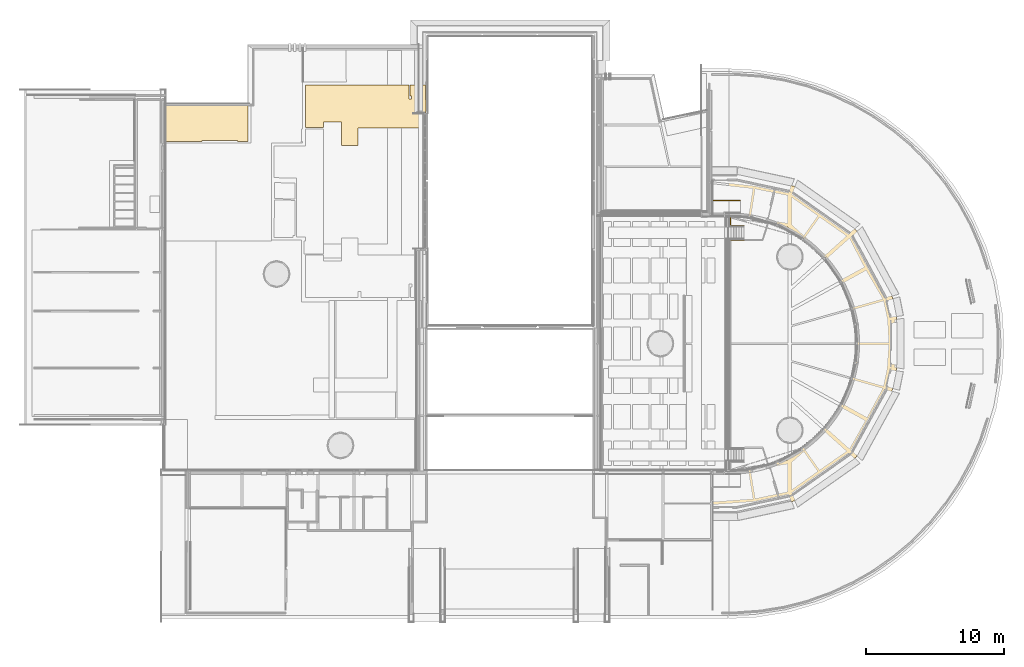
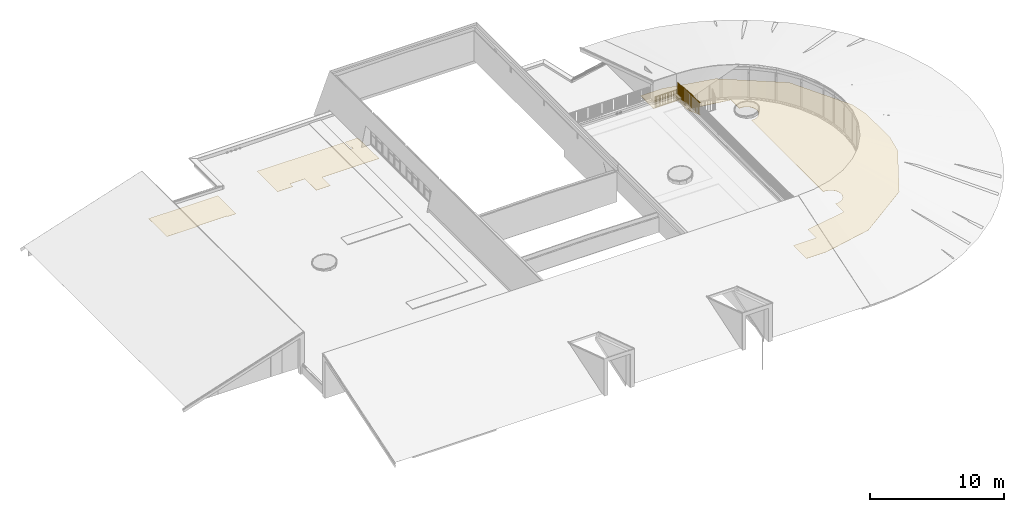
# One storey, part 59 of 66: 4 railings, 3 coverings.
"""IFC2X3 building model written with IfcOpenShell, lengths in millimetres."""

import ifcopenshell
import ifcopenshell.guid

model = None  # the IFC model being written
_history = None  # IfcOwnerHistory: only IFC2X3 demands one
_inside = {}  # id of a spatial element -> (the spatial element, [elements in it])
_under = {}  # id of a project, library or spatial element -> (it, [spatial elements below it])
_declared = {}  # id of a project -> (the project, [libraries it declares])
_typed = {}  # id of a type object -> (the type object, [elements of that type])
_made_of = {}  # id of a material, layer set ... -> (it, [elements and type objects made of it])


def new_model(schema):
    """Start an empty IFC model of exactly this schema.

    Asked for "IFC4X3", IfcOpenShell would pick the latest addendum, in which some entities
    have other attributes; the version numbers below select the first issue.
    IFC2X3 requires an IfcOwnerHistory on every rooted entity: one is made here for all.
    """
    global model, _history
    if schema == "IFC4X3":
        model = ifcopenshell.file(schema_version=(4, 3, 0, 0))
    else:
        model = ifcopenshell.file(schema=schema)
    _inside.clear()
    _under.clear()
    _declared.clear()
    _typed.clear()
    _made_of.clear()
    _history = None
    if model.schema == "IFC2X3":
        org = make("IfcOrganization", Name="unknown")
        user = make(
            "IfcPersonAndOrganization",
            ThePerson=make("IfcPerson", FamilyName="unknown"),
            TheOrganization=org,
        )
        app = make(
            "IfcApplication",
            ApplicationDeveloper=org,
            Version="unknown",
            ApplicationFullName="unknown",
            ApplicationIdentifier="unknown",
        )
        _history = make(
            "IfcOwnerHistory",
            OwningUser=user,
            OwningApplication=app,
            ChangeAction="ADDED",
            CreationDate=0,
        )
    return model


def make(cls, **values):
    """One entity of the class cls with the attributes given. An attribute that is None is left unset."""
    return model.create_entity(
        cls, **{name: value for name, value in values.items() if value is not None}
    )


def entity(cls, *values):
    """Any entity or typed value of the class cls, its attributes in the order of the schema. None: left unset."""
    e = model.create_entity(cls)
    for i, value in enumerate(values):
        if value is not None:
            e[i] = value
    return e


def rooted(cls, **values):
    """An entity with a GlobalId (a new one), such as an element, a storey or a relation."""
    return make(cls, GlobalId=ifcopenshell.guid.new(), OwnerHistory=_history, **values)


def si_unit(unit_type, name, prefix=None):
    """IfcSIUnit, for example si_unit("LENGTHUNIT", "METRE", prefix="MILLI")."""
    return make("IfcSIUnit", UnitType=unit_type, Prefix=prefix, Name=name)


def converted_unit(unit_type, name, factor, base, dimensions=None, offset=None):
    """IfcConversionBasedUnit, such as the inch: factor (a typed value) times the base unit."""
    return make(
        "IfcConversionBasedUnit"
        if offset is None
        else "IfcConversionBasedUnitWithOffset",
        ConversionOffset=offset,
        Dimensions=None
        if dimensions is None
        else entity("IfcDimensionalExponents", *dimensions),
        UnitType=unit_type,
        Name=name,
        ConversionFactor=make(
            "IfcMeasureWithUnit", ValueComponent=factor, UnitComponent=base
        ),
    )


def derived_unit(unit_type, elements):
    """IfcDerivedUnit: a product of units, each with its exponent."""
    return make(
        "IfcDerivedUnit",
        Elements=[
            make("IfcDerivedUnitElement", Unit=unit, Exponent=power)
            for unit, power in elements
        ],
        UnitType=unit_type,
    )


def assignment(units):
    """IfcUnitAssignment: the units of a project."""
    return None if units is None else make("IfcUnitAssignment", Units=units)


def point(xyz):
    """IfcCartesianPoint."""
    return None if xyz is None else make("IfcCartesianPoint", Coordinates=xyz)


def direction(xyz):
    """IfcDirection."""
    return None if xyz is None else make("IfcDirection", DirectionRatios=xyz)


def frame(location, z_axis=None, x_axis=None):
    """IfcAxis2Placement3D, a coordinate frame: its origin and axes. An axis left out is left unset."""
    return make(
        "IfcAxis2Placement3D",
        Location=point(location),
        Axis=direction(z_axis),
        RefDirection=direction(x_axis),
    )


def frame_2d(location, x_axis=None):
    """IfcAxis2Placement2D, a coordinate frame in the plane: its origin and x axis."""
    return make(
        "IfcAxis2Placement2D", Location=point(location), RefDirection=direction(x_axis)
    )


def origin():
    """The frame at (0, 0, 0) with its axes left unset."""
    return frame((0.0, 0.0, 0.0))


def place(relative_to, where):
    """IfcLocalPlacement: puts the frame where relative to a parent placement (None: the world)."""
    return make(
        "IfcLocalPlacement", PlacementRelTo=relative_to, RelativePlacement=where
    )


def context(
    kind, dimensions, precision=None, world=None, true_north=None, identifier=None
):
    """IfcGeometricRepresentationContext, for example the 3D "Model" context."""
    return make(
        "IfcGeometricRepresentationContext",
        ContextIdentifier=identifier,
        ContextType=kind,
        CoordinateSpaceDimension=dimensions,
        Precision=precision,
        WorldCoordinateSystem=world,
        TrueNorth=true_north,
    )


def subcontext(parent, identifier, kind, view, scale=None):
    """IfcGeometricRepresentationSubContext, for example "Body" below "Model"."""
    return make(
        "IfcGeometricRepresentationSubContext",
        ContextIdentifier=identifier,
        ContextType=kind,
        ParentContext=parent,
        TargetScale=scale,
        TargetView=view,
    )


def project(units=None, contexts=None):
    """IfcProject with its units and contexts."""
    return rooted(
        "IfcProject",
        Name="project",
        RepresentationContexts=contexts,
        UnitsInContext=assignment(units),
    )


def spatial(cls, under=None, at=None, **own):
    """A site, building, storey or space (cls), placed at a placement, below another one or the project."""
    s = rooted(cls, ObjectPlacement=at, **own)
    if under is not None:
        _under.setdefault(under.id(), (under, []))[1].append(s)
    return s


def polyline(points):
    """IfcPolyline through the points."""
    return make("IfcPolyline", Points=[point(p) for p in points])


def circle_curve(where, radius):
    """IfcCircle in the frame where."""
    return make("IfcCircle", Position=where, Radius=radius)


def parameter(value):
    """IfcParameterValue: where a trimmed curve begins or ends, as a parameter of its basis curve."""
    return model.create_entity("IfcParameterValue", value)


def trimmed(basis, trim1, trim2, sense, master):
    """IfcTrimmedCurve: the piece of a basis curve between two trims."""
    return make(
        "IfcTrimmedCurve",
        BasisCurve=basis,
        Trim1=trim1,
        Trim2=trim2,
        SenseAgreement=sense,
        MasterRepresentation=master,
    )


def segment(curve, same_sense, transition):
    """IfcCompositeCurveSegment."""
    return make(
        "IfcCompositeCurveSegment",
        Transition=transition,
        SameSense=same_sense,
        ParentCurve=curve,
    )


def composite_curve(segments, self_intersect=None):
    """IfcCompositeCurve: segments joined end to end."""
    return make("IfcCompositeCurve", Segments=segments, SelfIntersect=self_intersect)


def profile(cls, at=None, kind="AREA", **sizes):
    """A parametric profile (cls). Its sizes go by their IFC names, for example OverallWidth=200.0."""
    return make(cls, ProfileType=kind, Position=at, **sizes)


def rectangle(**sizes):
    """IfcRectangleProfileDef."""
    return profile("IfcRectangleProfileDef", **sizes)


def outline(outer, holes=None, kind="AREA"):
    """IfcArbitraryClosedProfileDef: a profile drawn as a closed curve; with holes, ...WithVoids."""
    if holes is None:
        return make("IfcArbitraryClosedProfileDef", ProfileType=kind, OuterCurve=outer)
    return make(
        "IfcArbitraryProfileDefWithVoids",
        ProfileType=kind,
        OuterCurve=outer,
        InnerCurves=holes,
    )


def extrude(swept, where, along, depth):
    """IfcExtrudedAreaSolid: the profile swept, set in the frame where, extruded along a direction by depth."""
    return make(
        "IfcExtrudedAreaSolid",
        SweptArea=swept,
        Position=where,
        ExtrudedDirection=direction(along),
        Depth=depth,
    )


def shape(context_of_items, identifier, shape_type, items):
    """IfcShapeRepresentation: the items that make up one representation, for example the "Body"."""
    return make(
        "IfcShapeRepresentation",
        ContextOfItems=context_of_items,
        RepresentationIdentifier=identifier,
        RepresentationType=shape_type,
        Items=items,
    )


def source(mapping_origin, context_of_items, identifier, shape_type, items):
    """IfcRepresentationMap: a shape defined once, which mapped items show again and again."""
    return make(
        "IfcRepresentationMap",
        MappingOrigin=mapping_origin,
        MappedRepresentation=shape(context_of_items, identifier, shape_type, items),
    )


def transform(
    local_origin,
    x_axis=None,
    y_axis=None,
    z_axis=None,
    scale=None,
    scale2=None,
    scale3=None,
    uniform=True,
):
    """IfcCartesianTransformationOperator3D, or its non-uniform kind. x_axis, y_axis, z_axis: its Axis1, 2, 3."""
    if uniform:
        return make(
            "IfcCartesianTransformationOperator3D",
            Axis1=direction(x_axis),
            Axis2=direction(y_axis),
            LocalOrigin=point(local_origin),
            Scale=scale,
            Axis3=direction(z_axis),
        )
    return make(
        "IfcCartesianTransformationOperator3DnonUniform",
        Axis1=direction(x_axis),
        Axis2=direction(y_axis),
        LocalOrigin=point(local_origin),
        Scale=scale,
        Axis3=direction(z_axis),
        Scale2=scale2,
        Scale3=scale3,
    )


def mapped(mapping_source, mapping_target):
    """IfcMappedItem: shows the shape of a source again, moved by a transform."""
    return make(
        "IfcMappedItem", MappingSource=mapping_source, MappingTarget=mapping_target
    )


def material(Name=None, Category=None):
    """IfcMaterial."""
    return make("IfcMaterial", Name=Name, Category=Category)


def material_list(materials):
    """IfcMaterialList."""
    return make("IfcMaterialList", Materials=materials)


def layer(
    of_material, thickness, ventilated=None, Name=None, Category=None, Priority=None
):
    """IfcMaterialLayer: one layer of a wall or slab, of a material (None: an air gap)."""
    return make(
        "IfcMaterialLayer",
        Material=of_material,
        LayerThickness=thickness,
        IsVentilated=ventilated,
        Name=Name,
        Category=Category,
        Priority=Priority,
    )


def layer_set(layers, Name=None):
    """IfcMaterialLayerSet."""
    return make("IfcMaterialLayerSet", MaterialLayers=layers, LayerSetName=Name)


def layer_usage(for_layer_set, set_direction, sense, offset, extent=None):
    """IfcMaterialLayerSetUsage: how a layer set lies in its element."""
    return make(
        "IfcMaterialLayerSetUsage",
        ForLayerSet=for_layer_set,
        LayerSetDirection=set_direction,
        DirectionSense=sense,
        OffsetFromReferenceLine=offset,
        ReferenceExtent=extent,
    )


def made_of(thing, what):
    """Note that an element or type object is made of a material, layer set ...; save() writes the relation."""
    if what is not None:
        _made_of.setdefault(what.id(), (what, []))[1].append(thing)
    return thing


def type_object(cls, material=None, **own):
    """A type object (cls), such as IfcWallType, which elements share."""
    return made_of(rooted(cls, **own), material)


def type_shapes(of_type, sources):
    """Give a type object the sources (RepresentationMaps) that its elements show as mapped items."""
    of_type.RepresentationMaps = sources


def element(
    cls,
    number,
    at=None,
    inside=None,
    cuts=None,
    type_object=None,
    material=None,
    context=None,
    identifier="Body",
    shape_type=None,
    held_by="IfcProductDefinitionShape",
    body=None,
    shapes=None,
    **own,
):
    """One element of the class cls, such as IfcWall. Its Tag is "e" and its number.

    at: its placement. inside: the storey or other place that contains it. cuts: it is an
    opening in that element (IfcRelVoidsElement). A single representation is given by context,
    identifier, shape_type and body (its items); several are given by shapes. held_by: the class
    of the entity that holds the representations. save() writes the other relations.
    """
    e = rooted(cls, Tag="e%d" % number, ObjectPlacement=at, **own)
    if body is not None:
        shapes = [shape(context, identifier, shape_type, body)]
    if shapes is not None:
        e.Representation = make(held_by, Representations=shapes)
    if inside is not None:
        _inside.setdefault(inside.id(), (inside, []))[1].append(e)
    if cuts is not None:
        rooted(
            "IfcRelVoidsElement", RelatingBuildingElement=cuts, RelatedOpeningElement=e
        )
    if type_object is not None:
        _typed.setdefault(type_object.id(), (type_object, []))[1].append(e)
    return made_of(e, material)


def aggregate(whole, parts):
    """IfcRelAggregates: a whole, such as a stair, and the parts it consists of."""
    return rooted("IfcRelAggregates", RelatingObject=whole, RelatedObjects=parts)


def save(model, path):
    """Write the relations noted so far, then the file.

    IfcRelAggregates (storeys below a building ...), IfcRelContainedInSpatialStructure (elements
    in a storey), IfcRelDefinesByType, IfcRelAssociatesMaterial and IfcRelDeclares: one each for
    every whole, place, type object, material and project.
    """
    for whole, parts in _under.values():
        aggregate(whole, parts)
    for where, things in _inside.values():
        rooted(
            "IfcRelContainedInSpatialStructure",
            RelatedElements=things,
            RelatingStructure=where,
        )
    for kind, things in _typed.values():
        rooted("IfcRelDefinesByType", RelatedObjects=things, RelatingType=kind)
    for what, things in _made_of.values():
        rooted("IfcRelAssociatesMaterial", RelatedObjects=things, RelatingMaterial=what)
    for by, libraries in _declared.values():
        rooted("IfcRelDeclares", RelatingContext=by, RelatedDefinitions=libraries)
    model.write(path)


model = new_model("IFC2X3")

# Units and contexts
model_context = context("Model", 3, precision=0.01, world=origin(), true_north=direction((6.12303176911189e-17, 1.0)))
body_context = subcontext(model_context, "Body", "Model", "MODEL_VIEW")
ifc_project = project(units=[si_unit("LENGTHUNIT", "METRE", prefix="MILLI"), si_unit("AREAUNIT", "SQUARE_METRE"), si_unit("VOLUMEUNIT", "CUBIC_METRE"), converted_unit("PLANEANGLEUNIT", "DEGREE", entity("IfcRatioMeasure", 0.0174532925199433), si_unit("PLANEANGLEUNIT", "RADIAN"), dimensions=[0, 0, 0, 0, 0, 0, 0]), si_unit("MASSUNIT", "GRAM", prefix="KILO"), derived_unit("MASSDENSITYUNIT", [(si_unit("MASSUNIT", "GRAM", prefix="KILO"), 1), (si_unit("LENGTHUNIT", "METRE"), -3)]), derived_unit("MOMENTOFINERTIAUNIT", [(si_unit("LENGTHUNIT", "METRE"), 4)]), si_unit("TIMEUNIT", "SECOND"), si_unit("FREQUENCYUNIT", "HERTZ"), si_unit("THERMODYNAMICTEMPERATUREUNIT", "DEGREE_CELSIUS"), derived_unit("THERMALTRANSMITTANCEUNIT", [(si_unit("MASSUNIT", "GRAM", prefix="KILO"), 1), (si_unit("THERMODYNAMICTEMPERATUREUNIT", "KELVIN"), -1), (si_unit("TIMEUNIT", "SECOND"), -3)]), derived_unit("VOLUMETRICFLOWRATEUNIT", [(si_unit("LENGTHUNIT", "METRE"), 3), (si_unit("TIMEUNIT", "SECOND"), -1)]), si_unit("ELECTRICCURRENTUNIT", "AMPERE"), si_unit("ELECTRICVOLTAGEUNIT", "VOLT"), si_unit("POWERUNIT", "WATT"), si_unit("FORCEUNIT", "NEWTON", prefix="KILO"), si_unit("ILLUMINANCEUNIT", "LUX"), si_unit("LUMINOUSFLUXUNIT", "LUMEN"), si_unit("LUMINOUSINTENSITYUNIT", "CANDELA"), derived_unit("USERDEFINED", [(si_unit("MASSUNIT", "GRAM", prefix="KILO"), -1), (si_unit("LENGTHUNIT", "METRE"), -2), (si_unit("TIMEUNIT", "SECOND"), 3), (si_unit("LUMINOUSFLUXUNIT", "LUMEN"), 1)]), derived_unit("LINEARVELOCITYUNIT", [(si_unit("LENGTHUNIT", "METRE"), 1), (si_unit("TIMEUNIT", "SECOND"), -1)]), si_unit("PRESSUREUNIT", "PASCAL"), derived_unit("USERDEFINED", [(si_unit("LENGTHUNIT", "METRE"), -2), (si_unit("MASSUNIT", "GRAM", prefix="KILO"), 1), (si_unit("TIMEUNIT", "SECOND"), -2)]), derived_unit("LINEARFORCEUNIT", [(si_unit("MASSUNIT", "GRAM", prefix="KILO"), 1), (si_unit("LENGTHUNIT", "METRE"), 1), (si_unit("TIMEUNIT", "SECOND"), -2), (si_unit("LENGTHUNIT", "METRE"), -1)]), derived_unit("PLANARFORCEUNIT", [(si_unit("MASSUNIT", "GRAM", prefix="KILO"), 1), (si_unit("LENGTHUNIT", "METRE"), 1), (si_unit("TIMEUNIT", "SECOND"), -2), (si_unit("LENGTHUNIT", "METRE"), -2)])], contexts=[model_context])

# Site, building, storey
site_placement = place(None, origin())
site = spatial("IfcSite", under=ifc_project, at=site_placement, Name="Default", CompositionType="ELEMENT")
building_placement = place(site_placement, origin())
building = spatial("IfcBuilding", under=site, at=building_placement, Name="-", CompositionType="ELEMENT")
storey_placement = place(building_placement, frame((0.0, 0.0, 3070.0)))
storey = spatial("IfcBuildingStorey", under=building, at=storey_placement, Name="01 eerste verdieping", CompositionType="ELEMENT", Elevation=3070.00000000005)

# Coverings
ifc_material_1 = material(Name="NLRS_f7_gipsplaat_gen")
ifc_layer_1 = layer(ifc_material_1, 15.0)
ifc_layer_set_1 = layer_set([ifc_layer_1], Name="Floor:NLRS_44_FL_verlaagd plafond")
ifc_layer_usage_1 = layer_usage(ifc_layer_set_1, "AXIS3", "POSITIVE", 0.0)
covering_type_1 = type_object("IfcCoveringType", Name="Floor:NLRS_44_FL_verlaagd plafond", PredefinedType="FLOORING", material=ifc_layer_set_1)
covering_1_placement = place(storey_placement, origin())
element("IfcCovering", 1, at=covering_1_placement, inside=storey, type_object=covering_type_1, material=ifc_layer_usage_1, Name="Floor:NLRS_44_FL_verlaagd plafond", ObjectType="Floor:NLRS_44_FL_verlaagd plafond", PredefinedType="FLOORING", context=body_context, shape_type="SweptSolid", body=[
    extrude(outline(polyline([(-1313.44126516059, -4797.66013375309), (1779.20794378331, -4797.66013375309), (1766.01682914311, -1650.80588865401), (1766.01682914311, 2691.33967985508), (767.754939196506, 2691.33967985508), (767.754939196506, 2896.33986624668), (967.754939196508, 2896.33986624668), (967.754939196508, 2781.33967985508), (1766.01682914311, 2781.33967985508), (1766.01682914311, 3901.3376043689), (-1355.24506080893, 3935.98284740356), (-1355.24506080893, -984.533112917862), (-2599.57912171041, -987.868268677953), (-2599.57912171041, -2201.54714619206), (-888.882060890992, -2201.54714619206), (-888.882060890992, -3476.868536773), (-1313.44126516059, -3476.868536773), (-1313.44126516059, -4797.66013375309)])), frame((24767.6601337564, 36575.0653112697, -410.0), z_axis=(0.0, 0.0, -1.0), x_axis=(0.0, 1.0, 0.0)), (0.0, 0.0, 1.0), 14.9999999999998),
])
ifc_material_2 = material(Name="n6_kunststof_RAL 7035")
ifc_layer_2 = layer(ifc_material_2, 10.0)
ifc_layer_set_2 = layer_set([ifc_layer_2], Name="Floor:NLRS_44_Plaat 10 mm RAL 7035")
ifc_layer_usage_2 = layer_usage(ifc_layer_set_2, "AXIS3", "POSITIVE", 0.0)
covering_type_2 = type_object("IfcCoveringType", Name="Floor:NLRS_44_Plaat 10 mm RAL 7035", PredefinedType="FLOORING", material=ifc_layer_set_2)
covering_2_placement = place(storey_placement, origin())
element("IfcCovering", 2, at=covering_2_placement, inside=storey, type_object=covering_type_2, material=ifc_layer_usage_2, Name="Floor:NLRS_44_Plaat 10 mm RAL 7035", ObjectType="Floor:NLRS_44_Plaat 10 mm RAL 7035", PredefinedType="FLOORING", context=body_context, shape_type="SweptSolid", body=[
    extrude(outline(polyline([(-698.718301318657, -3466.02346264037), (2026.15490395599, -3466.02346264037), (2026.15490395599, 2503.97653736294), (-698.718301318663, 2503.97653736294), (-698.718301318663, 1762.97653736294), (-628.718301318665, 1762.97653736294), (-628.718301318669, -800.929612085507), (-698.718301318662, -800.929612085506), (-698.718301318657, -3466.02346264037)])), frame((13291.0234626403, 34950.8316727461, -350.0), z_axis=(0.0, 0.0, -1.0), x_axis=(0.0, 1.0, 0.0)), (0.0, 0.0, 1.0), 9.99999999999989),
])
ifc_material_3 = material(Name="NLRS_i4_hout_multiplex")
ifc_layer_3 = layer(ifc_material_3, 18.0)
ifc_layer_set_3 = layer_set([ifc_layer_3], Name="Floor:NLRS_44_FL_Multiplex 18mm")
ifc_layer_usage_3 = layer_usage(ifc_layer_set_3, "AXIS3", "POSITIVE", 0.0)
covering_type_3 = type_object("IfcCoveringType", Name="Floor:NLRS_44_FL_Multiplex 18mm", PredefinedType="FLOORING", material=ifc_layer_set_3)
covering_3_placement = place(storey_placement, origin())
element("IfcCovering", 3, at=covering_3_placement, inside=storey, type_object=covering_type_3, material=ifc_layer_usage_3, Name="Floor:NLRS_44_FL_Multiplex 18mm", ObjectType="Floor:NLRS_44_FL_Multiplex 18mm", PredefinedType="FLOORING", context=body_context, shape_type="SweptSolid", body=[
    extrude(outline(composite_curve([segment(polyline([(9440.53812307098, -5070.68988355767), (10750.0763155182, -5070.68988355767)]), True, "CONTINUOUS"), segment(polyline([(10750.0763155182, -5070.68988355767), (10750.0763155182, -5060.68988355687)]), True, "CONTINUOUS"), segment(polyline([(10750.0763155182, -5060.68988355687), (11393.3622323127, -5060.68988355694)]), True, "CONTINUOUS"), segment(polyline([(11393.3622323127, -5060.68988355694), (11393.3622323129, -3191.0578378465)]), True, "CONTINUOUS"), segment(polyline([(11393.3622323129, -3191.0578378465), (10516.5909874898, 899.712781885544)]), True, "CONTINUOUS"), segment(polyline([(10516.5909874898, 899.712781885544), (7335.67762103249, 5407.47315040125)]), True, "CONTINUOUS"), segment(polyline([(7335.67762103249, 5407.47315040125), (2476.10766648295, 8045.37822517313)]), True, "CONTINUOUS"), segment(polyline([(2476.10766648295, 8045.37822517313), (907.346981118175, 8356.20403141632)]), True, "CONTINUOUS"), segment(polyline([(907.346981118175, 8356.20403141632), (-2657.1055519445, 8356.2040314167)]), True, "CONTINUOUS"), segment(polyline([(-2657.1055519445, 8356.2040314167), (-4393.21173233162, 8008.55221172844)]), True, "CONTINUOUS"), segment(polyline([(-4393.21173233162, 8008.55221172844), (-9114.76973047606, 5414.23928030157)]), True, "CONTINUOUS"), segment(polyline([(-9114.76973047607, 5414.23928030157), (-12295.9789266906, 905.51658807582)]), True, "CONTINUOUS"), segment(polyline([(-12295.9789266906, 905.51658807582), (-13181.5471575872, -3194.22990502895)]), True, "CONTINUOUS"), segment(polyline([(-13181.5471575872, -3194.22990502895), (-13181.5471575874, -4950.68988355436)]), True, "CONTINUOUS"), segment(polyline([(-13181.5471575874, -4950.68988355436), (-11222.3331440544, -4950.68988355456)]), True, "CONTINUOUS"), segment(polyline([(-11222.3331440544, -4950.68988355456), (-11222.3331440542, -2968.18988355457)]), True, "CONTINUOUS"), segment(polyline([(-11222.3331440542, -2968.18988355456), (-9937.12115470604, -2968.1898835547)]), True, "CONTINUOUS"), segment(polyline([(-9937.12115470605, -2968.1898835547), (-9322.25829451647, 504.817713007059)]), True, "CONTINUOUS"), segment(polyline([(-9322.25829451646, 504.817713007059), (-8057.27011999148, 504.817713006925)]), True, "CONTINUOUS"), segment(trimmed(circle_curve(frame_2d((-7165.30599515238, 624.817713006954), x_axis=(-0.991071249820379, -0.133333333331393)), 900.0), [parameter(164.675488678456)], [parameter(0.0)], True, "PARAMETER"), False, "CONTINUOUS"), segment(polyline([(-6273.34187031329, 504.817713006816), (4501.62777916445, 504.817713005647)]), True, "CONTINUOUS"), segment(trimmed(circle_curve(frame_2d((5393.59190400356, 624.817713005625), x_axis=(-0.991071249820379, -0.133333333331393)), 900.0), [parameter(164.675488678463)], [parameter(0.0)], True, "PARAMETER"), False, "CONTINUOUS"), segment(polyline([(6285.55602884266, 504.817713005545), (7548.74186699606, 504.817713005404)]), True, "CONTINUOUS"), segment(polyline([(7548.74186699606, 504.817713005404), (8119.21571132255, -2968.18988355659)]), True, "CONTINUOUS"), segment(polyline([(8119.21571132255, -2968.18988355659), (9440.53812307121, -2968.18988355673)]), True, "CONTINUOUS"), segment(polyline([(9440.53812307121, -2968.18988355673), (9440.53812307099, -5070.68988355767)]), True, "CONTINUOUS")], self_intersect=False)), frame((54432.3102736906, 20506.9572394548, 100.0), z_axis=(0.0, 0.0, -1.0), x_axis=(0.0, 1.0, 0.0)), (0.0, 0.0, 1.0), 18.0000000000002),
])

# Railings
ifc_material_4 = material(Name="AL_Aluminium antraciet")
railing_type_1 = type_object("IfcRailingType", Name="Leuning voor trap op dak:Leuning voor trap op dak", PredefinedType="NOTDEFINED", material=ifc_material_4)
shared_shape_1 = source(origin(), body_context, "Body", "SweptSolid", [
    extrude(rectangle(XDim=7.93390615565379, YDim=24.9999999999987, at=frame_2d((-4.33142410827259e-12, -2.16626716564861e-12), x_axis=(1.0, 0.0))), frame((51657.0873432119, 27135.5829529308, 3560.12080316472), z_axis=(0.0, 0.0, 1.0), x_axis=(-1.0, 0.0, 0.0)), (0.0, 0.0, 1.0), 1125.03019837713),
    extrude(rectangle(XDim=7.93390615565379, YDim=24.9999999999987, at=frame_2d((4.33142410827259e-12, -2.16626716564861e-12), x_axis=(1.0, 0.0))), frame((51552.0873432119, 27135.5829529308, 3642.687636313), z_axis=(0.0, 0.0, 1.0), x_axis=(-1.0, 0.0, 0.0)), (0.0, 0.0, 1.0), 1176.42330359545),
    extrude(rectangle(XDim=7.93390615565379, YDim=24.9999999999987, at=frame_2d((-4.33142410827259e-12, -2.16626716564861e-12), x_axis=(1.0, 0.0))), frame((51447.0873432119, 27135.5829529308, 3722.0), z_axis=(0.0, 0.0, 1.0), x_axis=(-1.0, 0.0, 0.0)), (0.0, 0.0, 1.0), 1231.070878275),
    extrude(rectangle(XDim=7.93390615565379, YDim=24.9999999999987, at=frame_2d((4.33142410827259e-12, -2.16626716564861e-12), x_axis=(1.0, 0.0))), frame((51342.0873432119, 27135.5829529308, 3802.82130260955), z_axis=(0.0, 0.0, 1.0), x_axis=(-1.0, 0.0, 0.0)), (0.0, 0.0, 1.0), 1284.2095140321),
    extrude(rectangle(XDim=7.93390615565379, YDim=24.9999999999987, at=frame_2d((-4.33142410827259e-12, -2.16626716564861e-12), x_axis=(1.0, 0.0))), frame((51237.0873432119, 27135.5829529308, 3884.54174036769), z_axis=(0.0, 0.0, 1.0), x_axis=(-1.0, 0.0, 0.0)), (0.0, 0.0, 1.0), 1336.44901464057),
    extrude(rectangle(XDim=7.93390615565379, YDim=24.9999999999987, at=frame_2d((4.33142410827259e-12, -2.16626716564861e-12), x_axis=(1.0, 0.0))), frame((51132.0873432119, 27135.5829529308, 3962.9549689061), z_axis=(0.0, 0.0, 1.0), x_axis=(-1.0, 0.0, 0.0)), (0.0, 0.0, 1.0), 1391.99572446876),
    extrude(rectangle(XDim=7.93390615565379, YDim=24.9999999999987, at=frame_2d((-4.33142410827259e-12, -2.16626716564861e-12), x_axis=(1.0, 0.0))), frame((51027.0873432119, 27135.5829529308, 4047.0), z_axis=(0.0, 0.0, 1.0), x_axis=(-1.0, 0.0, 0.0)), (0.0, 0.0, 1.0), 1441.91063174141),
    extrude(rectangle(XDim=7.93390615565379, YDim=24.9999999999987, at=frame_2d((4.33142410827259e-12, -2.16626716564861e-12), x_axis=(1.0, 0.0))), frame((50922.0873432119, 27135.5829529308, 4128.08863520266), z_axis=(0.0, 0.0, 1.0), x_axis=(-1.0, 0.0, 0.0)), (0.0, 0.0, 1.0), 1494.78193490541),
    extrude(rectangle(XDim=7.93390615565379, YDim=24.9999999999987, at=frame_2d((-4.33142410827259e-12, -2.16626716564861e-12), x_axis=(1.0, 0.0))), frame((50817.0873432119, 27135.5829529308, 4210.65546835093), z_axis=(0.0, 0.0, 1.0), x_axis=(-1.0, 0.0, 0.0)), (0.0, 0.0, 1.0), 1546.17504012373),
    extrude(rectangle(XDim=12.9999999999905, YDim=39.9999999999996, at=frame_2d((0.0, -1.66977542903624e-13), x_axis=(0.0, 1.0))), frame((51736.7361725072, 27135.5829529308, 4589.00983425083), z_axis=(-0.616897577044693, 0.0, 0.787043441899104), x_axis=(0.0, -1.0, 0.0)), (0.0, 0.0, 1.0), 1578.05774609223),
    extrude(rectangle(XDim=12.9999999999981, YDim=39.9999999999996, at=frame_2d((-1.00048858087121e-11, 4.33253433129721e-12), x_axis=(1.0, 0.0))), frame((50762.0873432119, 27135.5829529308, 4250.14910509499), z_axis=(0.792170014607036, 0.0, -0.610300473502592), x_axis=(0.610300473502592, 0.0, 0.792170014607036)), (0.0, 0.0, 1.0), 1228.90286434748),
])
type_shapes(railing_type_1, [shared_shape_1])
railing_1_placement = place(storey_placement, frame((0.0, 0.0, -3070.0)))
element("IfcRailing", 4, at=railing_1_placement, inside=storey, type_object=railing_type_1, material=ifc_material_4, Name="Leuning voor trap op dak:Leuning voor trap op dak", ObjectType="Leuning voor trap op dak:Leuning voor trap op dak", PredefinedType="NOTDEFINED", context=body_context, shape_type="MappedRepresentation", body=[
    mapped(shared_shape_1, transform((0.0, 0.0, 0.0), scale=1.0)),
])
railing_type_2 = type_object("IfcRailingType", Name="Leuning voor trap op dak1:Leuning voor trap op dak", PredefinedType="NOTDEFINED", material=ifc_material_4)
shared_shape_2 = source(origin(), body_context, "Body", "SweptSolid", [
    extrude(rectangle(XDim=7.93390615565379, YDim=24.9999999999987, at=frame_2d((4.33142410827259e-12, 2.16626716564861e-12), x_axis=(1.0, 0.0))), frame((51737.8581434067, 28176.3965964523, 3495.0), z_axis=(0.0, 0.0, 1.0), x_axis=(-1.0, 0.0, 0.0)), (0.0, 0.0, 1.0), 1097.94810987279),
    extrude(rectangle(XDim=7.93390615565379, YDim=24.9999999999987, at=frame_2d((-4.33142410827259e-12, 2.16626716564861e-12), x_axis=(1.0, 0.0))), frame((51657.0873432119, 28176.3965964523, 3560.12080316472), z_axis=(0.0, 0.0, 1.0), x_axis=(-1.0, 0.0, 0.0)), (0.0, 0.0, 1.0), 1125.03019837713),
    extrude(rectangle(XDim=7.93390615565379, YDim=24.9999999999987, at=frame_2d((4.33142410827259e-12, 2.16626716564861e-12), x_axis=(1.0, 0.0))), frame((51552.0873432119, 28176.3965964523, 3642.687636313), z_axis=(0.0, 0.0, 1.0), x_axis=(-1.0, 0.0, 0.0)), (0.0, 0.0, 1.0), 1176.42330359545),
    extrude(rectangle(XDim=7.93390615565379, YDim=24.9999999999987, at=frame_2d((-4.33142410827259e-12, 2.16626716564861e-12), x_axis=(1.0, 0.0))), frame((51447.0873432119, 28176.3965964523, 3722.0), z_axis=(0.0, 0.0, 1.0), x_axis=(-1.0, 0.0, 0.0)), (0.0, 0.0, 1.0), 1231.070878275),
    extrude(rectangle(XDim=7.93390615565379, YDim=24.9999999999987, at=frame_2d((4.33142410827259e-12, 2.16626716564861e-12), x_axis=(1.0, 0.0))), frame((51342.0873432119, 28176.3965964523, 3802.82130260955), z_axis=(0.0, 0.0, 1.0), x_axis=(-1.0, 0.0, 0.0)), (0.0, 0.0, 1.0), 1284.2095140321),
    extrude(rectangle(XDim=7.93390615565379, YDim=24.9999999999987, at=frame_2d((-4.33142410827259e-12, 2.16626716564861e-12), x_axis=(1.0, 0.0))), frame((51237.0873432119, 28176.3965964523, 3884.54174036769), z_axis=(0.0, 0.0, 1.0), x_axis=(-1.0, 0.0, 0.0)), (0.0, 0.0, 1.0), 1336.44901464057),
    extrude(rectangle(XDim=7.93390615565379, YDim=24.9999999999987, at=frame_2d((4.33142410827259e-12, 2.16626716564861e-12), x_axis=(1.0, 0.0))), frame((51132.0873432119, 28176.3965964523, 3962.9549689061), z_axis=(0.0, 0.0, 1.0), x_axis=(-1.0, 0.0, 0.0)), (0.0, 0.0, 1.0), 1391.99572446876),
    extrude(rectangle(XDim=7.93390615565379, YDim=24.9999999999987, at=frame_2d((-4.33142410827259e-12, 2.16626716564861e-12), x_axis=(1.0, 0.0))), frame((51027.0873432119, 28176.3965964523, 4047.0), z_axis=(0.0, 0.0, 1.0), x_axis=(-1.0, 0.0, 0.0)), (0.0, 0.0, 1.0), 1441.91063174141),
    extrude(rectangle(XDim=7.93390615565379, YDim=24.9999999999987, at=frame_2d((4.33142410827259e-12, 2.16626716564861e-12), x_axis=(1.0, 0.0))), frame((50922.0873432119, 28176.3965964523, 4128.08863520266), z_axis=(0.0, 0.0, 1.0), x_axis=(-1.0, 0.0, 0.0)), (0.0, 0.0, 1.0), 1494.78193490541),
    extrude(rectangle(XDim=7.93390615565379, YDim=24.9999999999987, at=frame_2d((-4.33142410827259e-12, 2.16626716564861e-12), x_axis=(1.0, 0.0))), frame((50817.0873432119, 28176.3965964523, 4210.65546835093), z_axis=(0.0, 0.0, 1.0), x_axis=(-1.0, 0.0, 0.0)), (0.0, 0.0, 1.0), 1546.17504012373),
    extrude(rectangle(XDim=12.9999999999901, YDim=39.9999999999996, at=frame_2d((4.33075797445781e-12, -4.74509320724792e-12), x_axis=(0.0, 1.0))), frame((51736.7361725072, 28176.3965964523, 4589.00983425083), z_axis=(-0.616897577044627, 0.0, 0.787043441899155), x_axis=(0.0, -1.0, 0.0)), (0.0, 0.0, 1.0), 1578.05774609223),
    extrude(rectangle(XDim=12.9999999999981, YDim=39.9999999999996, at=frame_2d((-4.57367477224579e-12, 0.0), x_axis=(1.0, 0.0))), frame((50762.0873432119, 28176.3965964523, 4250.14910509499), z_axis=(0.792170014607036, 0.0, -0.610300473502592), x_axis=(0.610300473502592, 0.0, 0.792170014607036)), (0.0, 0.0, 1.0), 1228.90286434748),
])
type_shapes(railing_type_2, [shared_shape_2])
railing_2_placement = place(storey_placement, frame((0.0, 0.0, -3070.0)))
element("IfcRailing", 5, at=railing_2_placement, inside=storey, type_object=railing_type_2, material=ifc_material_4, Name="Leuning voor trap op dak1:Leuning voor trap op dak", ObjectType="Leuning voor trap op dak1:Leuning voor trap op dak", PredefinedType="NOTDEFINED", context=body_context, shape_type="MappedRepresentation", body=[
    mapped(shared_shape_2, transform((0.0, 0.0, 0.0), scale=1.0)),
])
railing_3_placement = place(storey_placement, origin())
element("IfcRailing", 6, at=railing_3_placement, inside=storey, material=ifc_material_4, Name="Railing:NLRS_34_RAI_UN_spijlen binnen", ObjectType="Railing:NLRS_34_RAI_UN_spijlen binnen", PredefinedType="NOTDEFINED", context=body_context, shape_type="SweptSolid", body=[
    extrude(rectangle(XDim=9.99999999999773, YDim=24.9999999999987, at=frame_2d((0.0, 2.16626716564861e-12), x_axis=(1.0, 0.0))), frame((51426.6203901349, 29985.6139169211, 150.0)), (0.0, 0.0, 1.0), 950.0),
    extrude(rectangle(XDim=9.99999999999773, YDim=24.9999999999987, at=frame_2d((0.0, 2.16626716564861e-12), x_axis=(1.0, 0.0))), frame((51321.6203901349, 29985.6139169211, 150.0)), (0.0, 0.0, 1.0), 950.0),
    extrude(rectangle(XDim=9.99999999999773, YDim=24.9999999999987, at=frame_2d((0.0, 2.16626716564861e-12), x_axis=(1.0, 0.0))), frame((51216.6203901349, 29985.6139169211, 150.0)), (0.0, 0.0, 1.0), 950.0),
    extrude(rectangle(XDim=9.99999999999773, YDim=24.9999999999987, at=frame_2d((0.0, 2.16626716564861e-12), x_axis=(1.0, 0.0))), frame((51111.6203901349, 29985.6139169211, 150.0)), (0.0, 0.0, 1.0), 950.0),
    extrude(rectangle(XDim=9.99999999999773, YDim=24.9999999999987, at=frame_2d((0.0, 2.16626716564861e-12), x_axis=(1.0, 0.0))), frame((51006.6203901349, 29985.6139169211, 150.0)), (0.0, 0.0, 1.0), 950.0),
    extrude(rectangle(XDim=9.99999999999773, YDim=24.9999999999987, at=frame_2d((0.0, 2.16626716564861e-12), x_axis=(1.0, 0.0))), frame((50901.6203901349, 29985.6139169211, 150.0)), (0.0, 0.0, 1.0), 950.0),
    extrude(rectangle(XDim=9.99999999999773, YDim=24.9999999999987, at=frame_2d((0.0, 2.16626716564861e-12), x_axis=(1.0, 0.0))), frame((50796.6203901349, 29985.6139169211, 150.0)), (0.0, 0.0, 1.0), 950.0),
    extrude(rectangle(XDim=9.99999999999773, YDim=24.9999999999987, at=frame_2d((0.0, 2.16626716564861e-12), x_axis=(1.0, 0.0))), frame((50691.6203901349, 29985.6139169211, 150.0)), (0.0, 0.0, 1.0), 950.0),
    extrude(rectangle(XDim=9.99999999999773, YDim=24.9999999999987, at=frame_2d((0.0, 2.16626716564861e-12), x_axis=(1.0, 0.0))), frame((50586.6203901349, 29985.6139169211, 150.0)), (0.0, 0.0, 1.0), 950.0),
    extrude(rectangle(XDim=9.99999999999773, YDim=24.9999999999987, at=frame_2d((0.0, 2.16626716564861e-12), x_axis=(1.0, 0.0))), frame((50481.6203901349, 29985.6139169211, 150.0)), (0.0, 0.0, 1.0), 950.0),
    extrude(rectangle(XDim=9.99999999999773, YDim=24.9999999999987, at=frame_2d((0.0, 2.16626716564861e-12), x_axis=(1.0, 0.0))), frame((50376.6203901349, 29985.6139169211, 150.0)), (0.0, 0.0, 1.0), 950.0),
    extrude(rectangle(XDim=9.99999999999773, YDim=24.9999999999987, at=frame_2d((0.0, 2.16626716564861e-12), x_axis=(1.0, 0.0))), frame((50271.6203901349, 29985.6139169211, 150.0)), (0.0, 0.0, 1.0), 950.0),
    extrude(rectangle(XDim=9.99999999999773, YDim=24.9999999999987, at=frame_2d((0.0, -2.16626716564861e-12), x_axis=(1.0, 0.0))), frame((50166.6203901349, 29985.6139169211, 150.0)), (0.0, 0.0, 1.0), 950.0),
    extrude(rectangle(XDim=9.99999999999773, YDim=24.9999999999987, at=frame_2d((0.0, -2.16626716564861e-12), x_axis=(1.0, 0.0))), frame((50061.6203901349, 29985.6139169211, 150.0)), (0.0, 0.0, 1.0), 950.0),
    extrude(rectangle(XDim=9.99999999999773, YDim=24.9999999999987, at=frame_2d((0.0, -2.16626716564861e-12), x_axis=(1.0, 0.0))), frame((49956.6203901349, 29985.6139169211, 150.0)), (0.0, 0.0, 1.0), 950.0),
    extrude(rectangle(XDim=9.99999999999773, YDim=24.9999999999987, at=frame_2d((0.0, -2.16626716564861e-12), x_axis=(1.0, 0.0))), frame((49851.6203901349, 29985.6139169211, 150.0)), (0.0, 0.0, 1.0), 950.0),
    extrude(rectangle(XDim=9.99999999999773, YDim=24.9999999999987, at=frame_2d((0.0, -2.16626716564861e-12), x_axis=(1.0, 0.0))), frame((49746.6203901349, 29985.6139169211, 150.0)), (0.0, 0.0, 1.0), 950.0),
    extrude(rectangle(XDim=9.99999999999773, YDim=24.9999999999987, at=frame_2d((0.0, -2.16626716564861e-12), x_axis=(1.0, 0.0))), frame((49641.6203901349, 29985.6139169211, 150.0)), (0.0, 0.0, 1.0), 950.0),
    extrude(rectangle(XDim=9.99999999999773, YDim=24.9999999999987, at=frame_2d((0.0, -2.16626716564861e-12), x_axis=(1.0, 0.0))), frame((49536.6203901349, 29985.6139169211, 150.0)), (0.0, 0.0, 1.0), 950.0),
    extrude(rectangle(XDim=9.99999999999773, YDim=24.9999999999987, at=frame_2d((0.0, 2.16626716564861e-12), x_axis=(1.0, 0.0))), frame((51441.6203901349, 29985.6139169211, 150.0)), (0.0, 0.0, 1.0), 950.0),
    extrude(rectangle(XDim=9.99999999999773, YDim=24.9999999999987, at=frame_2d((0.0, -2.16626716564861e-12), x_axis=(1.0, 0.0))), frame((49521.6203901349, 29985.6139169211, 150.0)), (0.0, 0.0, 1.0), 950.0),
    extrude(rectangle(XDim=1920.0, YDim=39.9999999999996, at=frame_2d((0.0, 2.16537898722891e-12), x_axis=(1.0, 0.0))), frame((50481.6203901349, 29985.6139169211, 1095.0)), (0.0, 0.0, 1.0), 9.99999999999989),
    extrude(rectangle(XDim=1920.0, YDim=39.9999999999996, at=frame_2d((0.0, 2.16537898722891e-12), x_axis=(1.0, 0.0))), frame((50481.6203901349, 29985.6139169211, 145.0)), (0.0, 0.0, 1.0), 9.99999999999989),
])
ifc_material_5 = material(Name="AL_Aluminium RAL 7021")
ifc_material_list = material_list([ifc_material_4, ifc_material_5])
railing_4_placement = place(storey_placement, origin())
element("IfcRailing", 7, at=railing_4_placement, inside=storey, material=ifc_material_list, Name="Railing:NLRS_34_RAI_UN_spijlen_gen_aly", ObjectType="Railing:NLRS_34_RAI_UN_spijlen_gen_aly", PredefinedType="NOTDEFINED", context=body_context, shape_type="SweptSolid", body=[
    extrude(rectangle(XDim=10.0000000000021, YDim=49.9999999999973, at=frame_2d((2.16582307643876e-12, -4.33253433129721e-12), x_axis=(1.0, 0.0))), frame((50738.120390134, 28725.8231695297, 1180.0), z_axis=(0.0, 0.0, 1.0), x_axis=(0.0, 1.0, 0.0)), (0.0, 0.0, 1.0), 1577.0),
    extrude(rectangle(XDim=10.0000000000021, YDim=49.9999999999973, at=frame_2d((2.16582307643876e-12, -4.33253433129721e-12), x_axis=(1.0, 0.0))), frame((50738.120390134, 28615.8231695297, 1180.0), z_axis=(0.0, 0.0, 1.0), x_axis=(0.0, 1.0, 0.0)), (0.0, 0.0, 1.0), 1577.0),
    extrude(rectangle(XDim=10.0000000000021, YDim=49.9999999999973, at=frame_2d((2.16582307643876e-12, -4.33253433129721e-12), x_axis=(1.0, 0.0))), frame((50738.120390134, 28505.8231695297, 1180.0), z_axis=(0.0, 0.0, 1.0), x_axis=(0.0, 1.0, 0.0)), (0.0, 0.0, 1.0), 1577.0),
    extrude(rectangle(XDim=10.0000000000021, YDim=49.9999999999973, at=frame_2d((2.16582307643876e-12, -4.33253433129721e-12), x_axis=(1.0, 0.0))), frame((50738.120390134, 28395.8231695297, 1180.0), z_axis=(0.0, 0.0, 1.0), x_axis=(0.0, 1.0, 0.0)), (0.0, 0.0, 1.0), 1577.0),
    extrude(rectangle(XDim=10.0000000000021, YDim=49.9999999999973, at=frame_2d((2.16582307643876e-12, -4.33253433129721e-12), x_axis=(1.0, 0.0))), frame((50738.120390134, 28285.8231695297, 1180.0), z_axis=(0.0, 0.0, 1.0), x_axis=(0.0, 1.0, 0.0)), (0.0, 0.0, 1.0), 1577.0),
    extrude(rectangle(XDim=10.0000000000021, YDim=49.9999999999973, at=frame_2d((-2.16582307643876e-12, -4.33253433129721e-12), x_axis=(1.0, 0.0))), frame((50738.120390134, 28175.8231695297, 1180.0), z_axis=(0.0, 0.0, 1.0), x_axis=(0.0, 1.0, 0.0)), (0.0, 0.0, 1.0), 1577.0),
    extrude(rectangle(XDim=10.0000000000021, YDim=25.000000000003, at=frame_2d((-2.16582307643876e-12, 4.33164615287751e-12), x_axis=(1.0, 0.0))), frame((50738.120390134, 28745.249742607, 1180.0), z_axis=(0.0, 0.0, 1.0), x_axis=(0.0, 1.0, 0.0)), (0.0, 0.0, 1.0), 1577.0),
    extrude(rectangle(XDim=10.0000000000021, YDim=25.000000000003, at=frame_2d((-2.16582307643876e-12, 4.33164615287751e-12), x_axis=(1.0, 0.0))), frame((50738.120390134, 28156.3965964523, 1180.0), z_axis=(0.0, 0.0, 1.0), x_axis=(0.0, 1.0, 0.0)), (0.0, 0.0, 1.0), 1577.0),
    extrude(rectangle(XDim=588.853146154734, YDim=49.9999999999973, at=frame_2d((0.0, -4.33253433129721e-12), x_axis=(1.0, 0.0))), frame((50738.120390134, 28450.8231695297, 2752.0), z_axis=(0.0, 0.0, 1.0), x_axis=(0.0, 1.0, 0.0)), (0.0, 0.0, 1.0), 14.9999999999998),
    extrude(rectangle(XDim=588.853146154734, YDim=49.9999999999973, at=frame_2d((0.0, -4.33253433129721e-12), x_axis=(1.0, 0.0))), frame((50738.120390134, 28450.8231695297, 1175.0), z_axis=(0.0, 0.0, 1.0), x_axis=(0.0, 1.0, 0.0)), (0.0, 0.0, 1.0), 14.9999999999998),
])

save(model, "model.ifc")
